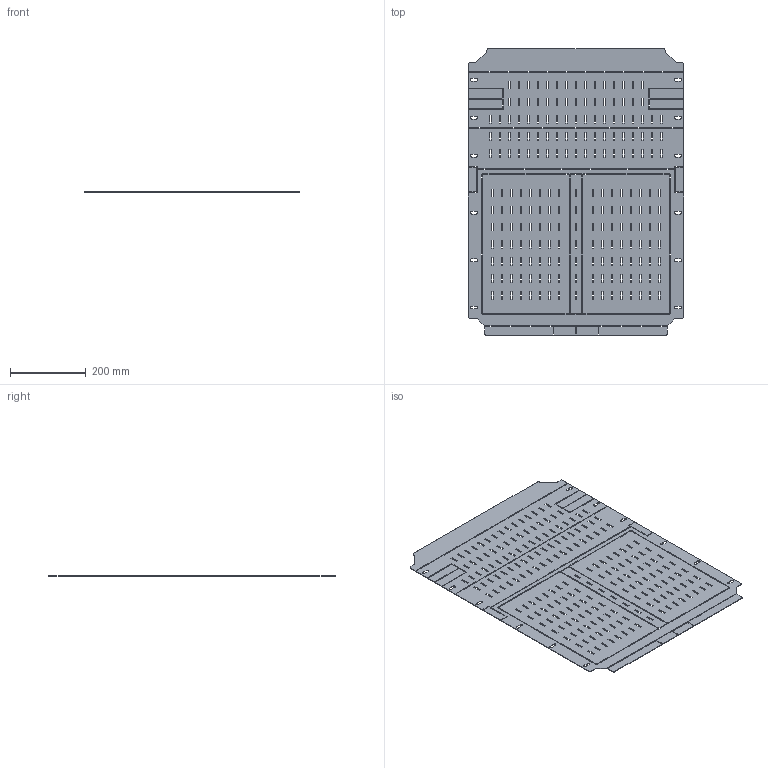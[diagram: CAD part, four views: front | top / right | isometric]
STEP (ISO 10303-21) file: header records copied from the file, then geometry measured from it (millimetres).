
FILE_DESCRIPTION(('STEP AP203'), '1');
FILE_NAME('Îãðàæäåíèå âåðõíåå ÔÁ Ø600õÃ800 ìì OptiBox M 419185 ÊÝÀÇ', '', ('UNSPECIFIED'), ('UNSPECIFIED'), 'C3D Converter', 'C3D Toolkit', '');
FILE_SCHEMA(('CONFIG_CONTROL_DESIGN'));
Length unit declared in the file: millimetre
Bounding box: 567 x 755 x 1.5 mm (x, y, z)
Volume: 589722 mm3; surface area: 822325.9 mm2
Topology: 1 solids, 1 shells, 1310 faces, 3924 edges, 2616 vertices
Faces by surface type: plane 1250, cylinder 60
Entity records: 44584 total; most frequent: CARTESIAN_POINT 7851, ORIENTED_EDGE 7848, DIRECTION 6666, EDGE_CURVE 3924, LINE 3804, VECTOR 3804, VERTEX_POINT 2616, FACE_BOUND 1928
